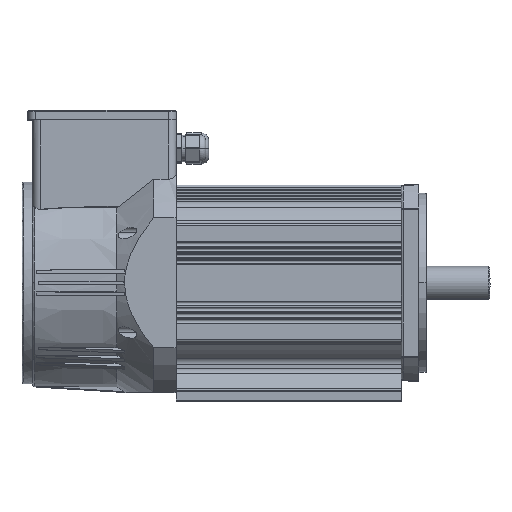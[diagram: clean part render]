
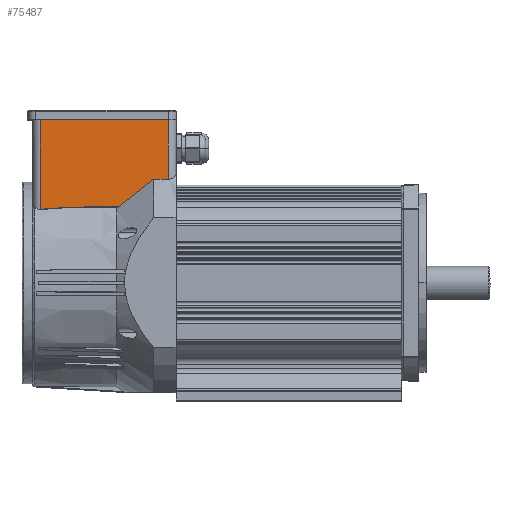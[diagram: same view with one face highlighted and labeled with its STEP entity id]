
A CAD part, top view. The second image highlights one B-rep face of the part: STEP entity #75487.
In plain terms, the highlighted planar face has unit normal (0, 0, 1) as drawn and (1, 0, 0) by its records, which use the part's own axes.
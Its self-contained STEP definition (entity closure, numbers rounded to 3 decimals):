
#408 = CARTESIAN_POINT ( 'NONE',  ( 62.5, 87.464, -111. ) ) ;
#629 = ORIENTED_EDGE ( 'NONE', *, *, #20569, .T. ) ;
#1714 = ORIENTED_EDGE ( 'NONE', *, *, #48097, .T. ) ;
#2812 = ORIENTED_EDGE ( 'NONE', *, *, #36249, .F. ) ;
#3424 = DIRECTION ( 'NONE',  ( 0., 0.012, -1. ) ) ;
#4093 = CARTESIAN_POINT ( 'NONE',  ( 62.5, 62.077, -19.268 ) ) ;
#4264 = CARTESIAN_POINT ( 'NONE',  ( 62.5, 87.464, -130. ) ) ;
#5568 = CARTESIAN_POINT ( 'NONE',  ( 62.5, 75.617, -95.587 ) ) ;
#6149 = CARTESIAN_POINT ( 'NONE',  ( 62.5, 87.464, -111.192 ) ) ;
#7186 = CARTESIAN_POINT ( 'NONE',  ( 62.5, 62.046, -16.756 ) ) ;
#7696 = CARTESIAN_POINT ( 'NONE',  ( 62.5, 64.018, -50.068 ) ) ;
#8878 = CARTESIAN_POINT ( 'NONE',  ( 62.5, 64.019, -50.09 ) ) ;
#9125 = PLANE ( 'NONE',  #85670 ) ;
#10092 = ORIENTED_EDGE ( 'NONE', *, *, #103322, .T. ) ;
#11206 = ORIENTED_EDGE ( 'NONE', *, *, #69413, .F. ) ;
#11463 = B_SPLINE_CURVE_WITH_KNOTS ( 'NONE', 3,
 ( #92968, #49392, #49013, #76488, #21275, #102022, #48243, #12651, #111457, #5568, #67831, #77288, #14205 ),
 .UNSPECIFIED., .F., .F.,
 ( 4, 1, 1, 1, 1, 1, 2, 2, 4 ),
 ( 0., 0.25, 0.375, 0.437, 0.469, 0.484, 0.492, 0.5, 1. ),
 .UNSPECIFIED. ) ;
#12651 = CARTESIAN_POINT ( 'NONE',  ( 62.5, 75.436, -95.359 ) ) ;
#13443 = VERTEX_POINT ( 'NONE', #408 ) ;
#14205 = CARTESIAN_POINT ( 'NONE',  ( 62.5, 87.464, -111. ) ) ;
#15630 = LINE ( 'NONE', #98704, #111051 ) ;
#16223 = CARTESIAN_POINT ( 'NONE',  ( 62.5, 63.213, -35.285 ) ) ;
#16443 = VERTEX_POINT ( 'NONE', #108054 ) ;
#16740 = CARTESIAN_POINT ( 'NONE',  ( 62.5, 64.211, -54.891 ) ) ;
#17292 = EDGE_CURVE ( 'NONE', #16443, #78588, #15630, .T. ) ;
#17512 = CARTESIAN_POINT ( 'NONE',  ( 62.5, 64.072, -51.309 ) ) ;
#17902 = CARTESIAN_POINT ( 'NONE',  ( 62.5, 64.239, -55.681 ) ) ;
#18030 = LINE ( 'NONE', #48858, #50218 ) ;
#18278 = CARTESIAN_POINT ( 'NONE',  ( 62.5, 64.02, -50.104 ) ) ;
#19760 = ORIENTED_EDGE ( 'NONE', *, *, #69927, .T. ) ;
#20569 = EDGE_CURVE ( 'NONE', #21166, #58870, #29100, .T. ) ;
#21166 = VERTEX_POINT ( 'NONE', #82358 ) ;
#21275 = CARTESIAN_POINT ( 'NONE',  ( 62.5, 74.009, -93.562 ) ) ;
#26547 = CARTESIAN_POINT ( 'NONE',  ( 62.5, 64.268, -56.484 ) ) ;
#27320 = CARTESIAN_POINT ( 'NONE',  ( 62.5, 64.251, -55.999 ) ) ;
#29100 = B_SPLINE_CURVE_WITH_KNOTS ( 'NONE', 3,
 ( #51014, #7186, #42774, #78936 ),
 .UNSPECIFIED., .F., .F.,
 ( 4, 4 ),
 ( 0., 1. ),
 .UNSPECIFIED. ) ;
#30282 = CARTESIAN_POINT ( 'NONE',  ( 62.5, 64.449, -63.877 ) ) ;
#33714 = DIRECTION ( 'NONE',  ( 0., -1., 0. ) ) ;
#34629 = EDGE_LOOP ( 'NONE', ( #11206, #103947, #2812, #629, #1714, #75659, #10092, #57805, #19760, #34824 ) ) ;
#34698 = CARTESIAN_POINT ( 'NONE',  ( 62.5, 63.965, -48.855 ) ) ;
#34824 = ORIENTED_EDGE ( 'NONE', *, *, #46518, .F. ) ;
#35462 = CARTESIAN_POINT ( 'NONE',  ( 62.5, 63.91, -47.62 ) ) ;
#35712 = DIRECTION ( 'NONE',  ( 1., 0., 0. ) ) ;
#35988 = VERTEX_POINT ( 'NONE', #110740 ) ;
#36249 = EDGE_CURVE ( 'NONE', #21166, #78588, #75648, .T. ) ;
#37083 = VERTEX_POINT ( 'NONE', #93266 ) ;
#38489 = EDGE_CURVE ( 'NONE', #35988, #13443, #11463, .T. ) ;
#38747 = B_SPLINE_CURVE_WITH_KNOTS ( 'NONE', 3,
 ( #61704, #71185, #81047, #89289, #35462, #34698, #106129, #116304, #89651, #62492, #7696, #8878, #18278, #17512, #97460, #16740, #70772, #17902, #79485, #107306, #27320, #26547, #43697, #70385, #71562 ),
 .UNSPECIFIED., .F., .F.,
 ( 4, 1, 1, 1, 1, 1, 1, 1, 1, 2, 2, 1, 1, 1, 2, 2, 1, 1, 4 ),
 ( 0., 0.25, 0.375, 0.437, 0.469, 0.484, 0.492, 0.496, 0.498, 0.499, 0.5, 0.625, 0.687, 0.695, 0.699, 0.703, 0.719, 0.75, 1. ),
 .UNSPECIFIED. ) ;
#39860 = DIRECTION ( 'NONE',  ( 0., 0., 1. ) ) ;
#41148 = B_SPLINE_CURVE_WITH_KNOTS ( 'NONE', 3,
 ( #4093, #48751, #66768, #102507 ),
 .UNSPECIFIED., .F., .F.,
 ( 4, 4 ),
 ( 0., 1. ),
 .UNSPECIFIED. ) ;
#42774 = CARTESIAN_POINT ( 'NONE',  ( 62.5, 62.062, -18.012 ) ) ;
#42858 = CARTESIAN_POINT ( 'NONE',  ( 62.5, 629.197, -15.5 ) ) ;
#43697 = CARTESIAN_POINT ( 'NONE',  ( 62.5, 64.368, -59.491 ) ) ;
#43737 = DIRECTION ( 'NONE',  ( 0., 0., -1. ) ) ;
#45490 = CARTESIAN_POINT ( 'NONE',  ( 62.5, 135., -9. ) ) ;
#45888 = DIRECTION ( 'NONE',  ( 0., 0., -1. ) ) ;
#46518 = EDGE_CURVE ( 'NONE', #37083, #111656, #77638, .T. ) ;
#48097 = EDGE_CURVE ( 'NONE', #58870, #63390, #41148, .T. ) ;
#48243 = CARTESIAN_POINT ( 'NONE',  ( 62.5, 75.257, -95.133 ) ) ;
#48751 = CARTESIAN_POINT ( 'NONE',  ( 62.5, 62.366, -23.317 ) ) ;
#48858 = CARTESIAN_POINT ( 'NONE',  ( 62.5, 64.449, -63.877 ) ) ;
#49013 = CARTESIAN_POINT ( 'NONE',  ( 62.5, 69.114, -87.494 ) ) ;
#49392 = CARTESIAN_POINT ( 'NONE',  ( 62.5, 66.421, -84.258 ) ) ;
#49990 = FACE_OUTER_BOUND ( 'NONE', #34629, .T. ) ;
#50218 = VECTOR ( 'NONE', #3424, 1000. ) ;
#51014 = CARTESIAN_POINT ( 'NONE',  ( 62.5, 62.03, -15.5 ) ) ;
#52756 = CARTESIAN_POINT ( 'NONE',  ( 62.5, 87.464, -130. ) ) ;
#56939 = LINE ( 'NONE', #60347, #114553 ) ;
#57805 = ORIENTED_EDGE ( 'NONE', *, *, #38489, .T. ) ;
#58870 = VERTEX_POINT ( 'NONE', #73346 ) ;
#60347 = CARTESIAN_POINT ( 'NONE',  ( 62.5, 629.197, -123.5 ) ) ;
#61704 = CARTESIAN_POINT ( 'NONE',  ( 62.5, 63.213, -35.285 ) ) ;
#62492 = CARTESIAN_POINT ( 'NONE',  ( 62.5, 64.017, -50.034 ) ) ;
#63390 = VERTEX_POINT ( 'NONE', #16223 ) ;
#66768 = CARTESIAN_POINT ( 'NONE',  ( 62.5, 62.745, -28.655 ) ) ;
#66873 = LINE ( 'NONE', #52756, #93562 ) ;
#67831 = CARTESIAN_POINT ( 'NONE',  ( 62.5, 79.425, -100.404 ) ) ;
#69413 = EDGE_CURVE ( 'NONE', #16443, #37083, #56939, .T. ) ;
#69927 = EDGE_CURVE ( 'NONE', #13443, #111656, #66873, .T. ) ;
#70385 = CARTESIAN_POINT ( 'NONE',  ( 62.5, 64.426, -61.968 ) ) ;
#70772 = CARTESIAN_POINT ( 'NONE',  ( 62.5, 64.236, -55.574 ) ) ;
#71185 = CARTESIAN_POINT ( 'NONE',  ( 62.5, 63.357, -37.325 ) ) ;
#71562 = CARTESIAN_POINT ( 'NONE',  ( 62.5, 64.449, -63.877 ) ) ;
#73346 = CARTESIAN_POINT ( 'NONE',  ( 62.5, 62.077, -19.268 ) ) ;
#75487 = ADVANCED_FACE ( 'NONE', ( #49990 ), #9125, .T. ) ;
#75648 = LINE ( 'NONE', #42858, #110833 ) ;
#75659 = ORIENTED_EDGE ( 'NONE', *, *, #96484, .T. ) ;
#76486 = VERTEX_POINT ( 'NONE', #30282 ) ;
#76488 = CARTESIAN_POINT ( 'NONE',  ( 62.5, 72.36, -91.501 ) ) ;
#77288 = CARTESIAN_POINT ( 'NONE',  ( 62.5, 83.355, -105.516 ) ) ;
#77638 = LINE ( 'NONE', #4264, #111314 ) ;
#78588 = VERTEX_POINT ( 'NONE', #105811 ) ;
#78936 = CARTESIAN_POINT ( 'NONE',  ( 62.5, 62.077, -19.268 ) ) ;
#79485 = CARTESIAN_POINT ( 'NONE',  ( 62.5, 64.242, -55.753 ) ) ;
#81047 = CARTESIAN_POINT ( 'NONE',  ( 62.5, 63.566, -40.709 ) ) ;
#82358 = CARTESIAN_POINT ( 'NONE',  ( 62.5, 62.03, -15.5 ) ) ;
#85670 = AXIS2_PLACEMENT_3D ( 'NONE', #45490, #35712, #45888 ) ;
#89289 = CARTESIAN_POINT ( 'NONE',  ( 62.5, 63.797, -45.222 ) ) ;
#89651 = CARTESIAN_POINT ( 'NONE',  ( 62.5, 64.013, -49.954 ) ) ;
#92968 = CARTESIAN_POINT ( 'NONE',  ( 62.5, 64.666, -82.188 ) ) ;
#93266 = CARTESIAN_POINT ( 'NONE',  ( 62.5, 87.464, -123.5 ) ) ;
#93562 = VECTOR ( 'NONE', #43737, 1000. ) ;
#96484 = EDGE_CURVE ( 'NONE', #63390, #76486, #38747, .T. ) ;
#97460 = CARTESIAN_POINT ( 'NONE',  ( 62.5, 64.144, -53.081 ) ) ;
#98704 = CARTESIAN_POINT ( 'NONE',  ( 62.5, 137.5, -69.5 ) ) ;
#102022 = CARTESIAN_POINT ( 'NONE',  ( 62.5, 74.84, -94.607 ) ) ;
#102507 = CARTESIAN_POINT ( 'NONE',  ( 62.5, 63.213, -35.285 ) ) ;
#103322 = EDGE_CURVE ( 'NONE', #76486, #35988, #18030, .T. ) ;
#103947 = ORIENTED_EDGE ( 'NONE', *, *, #17292, .T. ) ;
#105811 = CARTESIAN_POINT ( 'NONE',  ( 62.5, 137.5, -15.5 ) ) ;
#106129 = CARTESIAN_POINT ( 'NONE',  ( 62.5, 63.993, -49.481 ) ) ;
#107306 = CARTESIAN_POINT ( 'NONE',  ( 62.5, 64.244, -55.796 ) ) ;
#107760 = DIRECTION ( 'NONE',  ( 0., 0., 1. ) ) ;
#108054 = CARTESIAN_POINT ( 'NONE',  ( 62.5, 137.5, -123.5 ) ) ;
#110740 = CARTESIAN_POINT ( 'NONE',  ( 62.5, 64.666, -82.188 ) ) ;
#110833 = VECTOR ( 'NONE', #114716, 1000. ) ;
#111051 = VECTOR ( 'NONE', #107760, 1000. ) ;
#111314 = VECTOR ( 'NONE', #39860, 1000. ) ;
#111457 = CARTESIAN_POINT ( 'NONE',  ( 62.5, 75.556, -95.51 ) ) ;
#111656 = VERTEX_POINT ( 'NONE', #6149 ) ;
#114553 = VECTOR ( 'NONE', #33714, 1000. ) ;
#114716 = DIRECTION ( 'NONE',  ( 0., 1., 0. ) ) ;
#116304 = CARTESIAN_POINT ( 'NONE',  ( 62.5, 64.006, -49.796 ) ) ;
